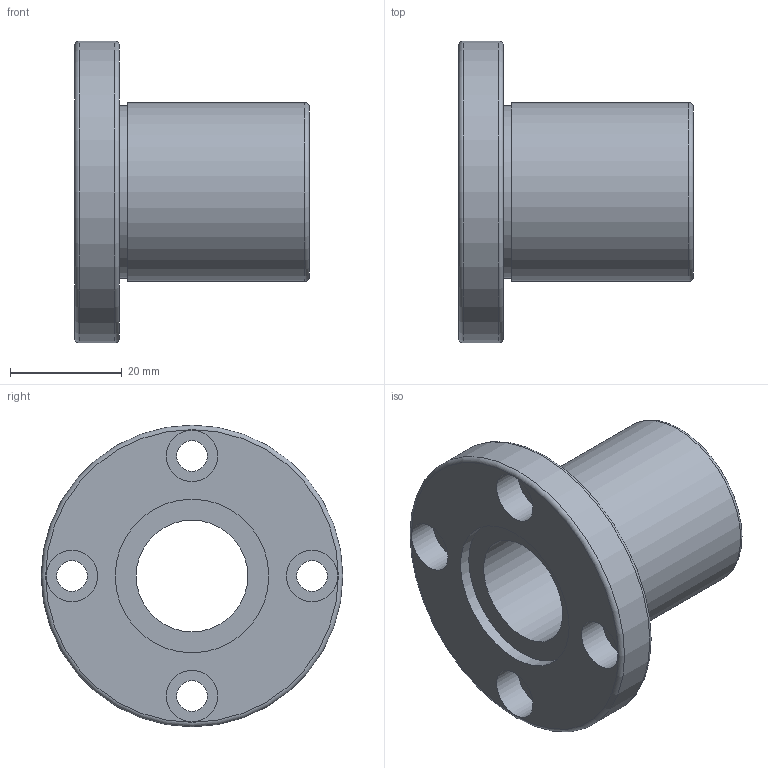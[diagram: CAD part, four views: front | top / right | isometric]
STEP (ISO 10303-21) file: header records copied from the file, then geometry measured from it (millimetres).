
FILE_DESCRIPTION( ( 'Unknown' ), '1' );
FILE_NAME( 'D:/累诀/己绕皋墨飘肺葱胶/11-04-06_档搁累己/01_府聪绢何教/LMF/LMF 20.stp', 'Unknown', ( 'Unknown' ), ( 'Unknown' ), 'PSStep 11.0', 'Unknown', ' ' );
FILE_SCHEMA( ( 'AUTOMOTIVE_DESIGN { 1 0 10303 214 1 1 1 1 }' ) );
Length unit declared in the file: millimetre
Products named in the file (1): 1
Bounding box: 42 x 54 x 54 mm (x, y, z)
Volume: 29479.2 mm3; surface area: 12021.5 mm2
Topology: 1 solids, 1 shells, 27 faces, 52 edges, 35 vertices
Faces by surface type: cylinder 14, plane 10, torus 3
Full cylindrical faces by diameter (mm): 5.5 x4, 9.2 x4, 20 x1, 27.5 x2, 31 x1, 32 x1, 54 x1
Entity records: 836 total; most frequent: DIRECTION 118, CARTESIAN_POINT 90, EDGE_LOOP 62, ORIENTED_EDGE 62, AXIS2_PLACEMENT_3D 59, FACE_OUTER_BOUND 44, EDGE_CURVE 31, VERTEX_POINT 31
